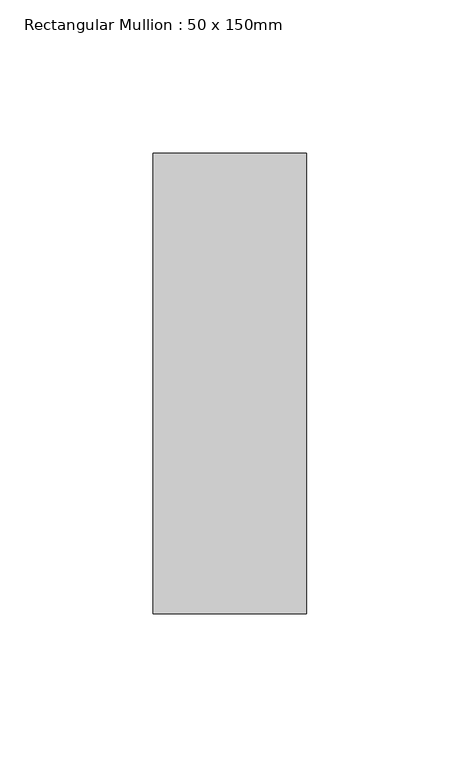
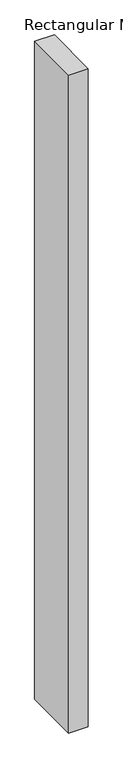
"""IFC4 building model written with IfcOpenShell, lengths in millimetres: member geometry, Rectangular Mullion : 50 x 150mm."""

from ifc_helpers import new_model, si_unit, frame, origin, place, context, project, spatial, polyline, outline, extrude, source, transform, mapped, element, save


def rectangular_mullion_50_x_150mm_393abe4d(model_context):
    return source(origin(), model_context, "Body", "SweptSolid", [
        extrude(outline(polyline([(0.0, 75.0), (0.0, -75.0), (-50.0, -75.0), (-50.0, 75.0), (0.0, 75.0)])), frame((0.0, 0.0, -1774.5130889), z_axis=(0.0, 0.0, 1.0), x_axis=(1.0, 0.0, 0.0)), (0.0, 0.0, 1.0), 1774.5130889),
    ])


if __name__ == "__main__":
    model = new_model("IFC4")
    model_context = context("Model", 3, world=origin())
    ifc_project = project(units=[si_unit("LENGTHUNIT", "METRE", prefix="MILLI")], contexts=[model_context])
    site = spatial("IfcSite", under=ifc_project)
    building = spatial("IfcBuilding", under=site)
    placement = place(None, origin())
    rectangular_mullion_50_x_150mm_shape = rectangular_mullion_50_x_150mm_393abe4d(model_context)
    element("IfcMember", 1, ObjectType="Rectangular Mullion : 50 x 150mm", at=placement, inside=building, context=model_context, shape_type="MappedRepresentation", body=[
        mapped(rectangular_mullion_50_x_150mm_shape, transform((0.0, 0.0, 0.0), x_axis=(1.0, 0.0, 0.0), y_axis=(0.0, 1.0, 0.0), z_axis=(0.0, 0.0, 1.0))),
    ])
    save(model, "model.ifc")
